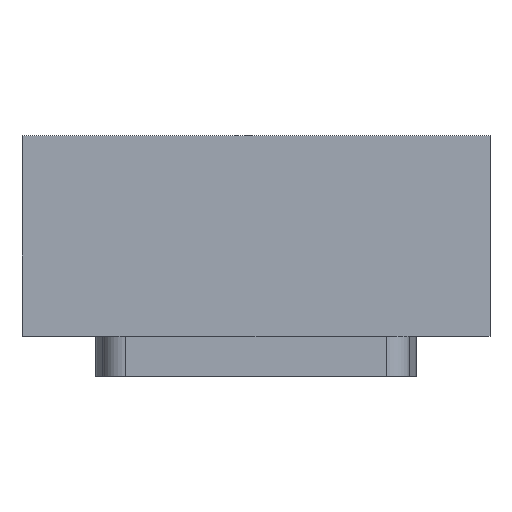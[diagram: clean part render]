
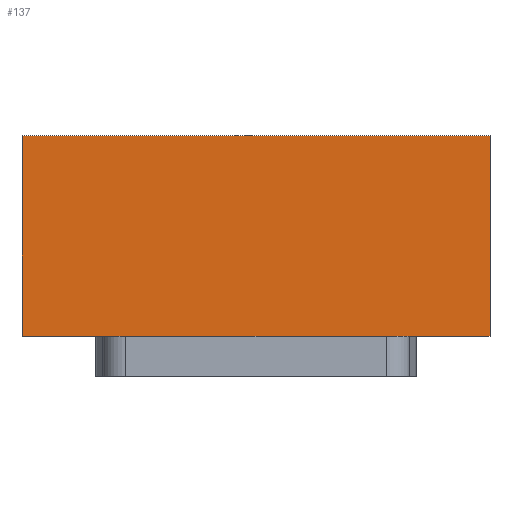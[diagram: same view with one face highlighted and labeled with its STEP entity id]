
A CAD part, left-side view. The second image highlights one B-rep face of the part: STEP entity #137.
In plain terms, the highlighted planar face has unit normal (-1, 0, 0).
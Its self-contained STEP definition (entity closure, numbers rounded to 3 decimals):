
#21 = EDGE_CURVE('',#22,#24,#26,.T.);
#22 = VERTEX_POINT('',#23);
#23 = CARTESIAN_POINT('',(-11.9,-3.5,3.6));
#24 = VERTEX_POINT('',#25);
#25 = CARTESIAN_POINT('',(-11.9,3.5,3.6));
#26 = SURFACE_CURVE('',#27,(#31,#43),.PCURVE_S1.);
#27 = LINE('',#28,#29);
#28 = CARTESIAN_POINT('',(-11.9,-10.52,3.6));
#29 = VECTOR('',#30,1.);
#30 = DIRECTION('',(-0.,1.,0.));
#31 = PCURVE('',#32,#37);
#32 = PLANE('',#33);
#33 = AXIS2_PLACEMENT_3D('',#34,#35,#36);
#34 = CARTESIAN_POINT('',(-11.9,-12.12,3.6));
#35 = DIRECTION('',(0.,0.,1.));
#36 = DIRECTION('',(1.,0.,-0.));
#37 = DEFINITIONAL_REPRESENTATION('',(#38),#42);
#38 = LINE('',#39,#40);
#39 = CARTESIAN_POINT('',(0.,1.6));
#40 = VECTOR('',#41,1.);
#41 = DIRECTION('',(0.,1.));
#42 = ( GEOMETRIC_REPRESENTATION_CONTEXT(2) 
PARAMETRIC_REPRESENTATION_CONTEXT() REPRESENTATION_CONTEXT('2D SPACE',''
  ) );
#43 = PCURVE('',#44,#49);
#44 = PLANE('',#45);
#45 = AXIS2_PLACEMENT_3D('',#46,#47,#48);
#46 = CARTESIAN_POINT('',(-11.9,-10.52,0.6));
#47 = DIRECTION('',(1.,0.,-0.));
#48 = DIRECTION('',(0.,0.,1.));
#49 = DEFINITIONAL_REPRESENTATION('',(#50),#54);
#50 = LINE('',#51,#52);
#51 = CARTESIAN_POINT('',(3.,0.));
#52 = VECTOR('',#53,1.);
#53 = DIRECTION('',(0.,-1.));
#54 = ( GEOMETRIC_REPRESENTATION_CONTEXT(2) 
PARAMETRIC_REPRESENTATION_CONTEXT() REPRESENTATION_CONTEXT('2D SPACE',''
  ) );
#72 = PLANE('',#73);
#73 = AXIS2_PLACEMENT_3D('',#74,#75,#76);
#74 = CARTESIAN_POINT('',(-13.4,-3.5,-0.6));
#75 = DIRECTION('',(-0.,1.,0.));
#76 = DIRECTION('',(0.,0.,1.));
#126 = PLANE('',#127);
#127 = AXIS2_PLACEMENT_3D('',#128,#129,#130);
#128 = CARTESIAN_POINT('',(-13.4,3.5,-0.6));
#129 = DIRECTION('',(-0.,1.,0.));
#130 = DIRECTION('',(0.,0.,1.));
#137 = ADVANCED_FACE('',(#138),#44,.F.);
#138 = FACE_BOUND('',#139,.F.);
#139 = EDGE_LOOP('',(#140,#163,#164,#187));
#140 = ORIENTED_EDGE('',*,*,#141,.T.);
#141 = EDGE_CURVE('',#142,#24,#144,.T.);
#142 = VERTEX_POINT('',#143);
#143 = CARTESIAN_POINT('',(-11.9,3.5,0.6));
#144 = SURFACE_CURVE('',#145,(#149,#156),.PCURVE_S1.);
#145 = LINE('',#146,#147);
#146 = CARTESIAN_POINT('',(-11.9,3.5,0.));
#147 = VECTOR('',#148,1.);
#148 = DIRECTION('',(0.,0.,1.));
#149 = PCURVE('',#44,#150);
#150 = DEFINITIONAL_REPRESENTATION('',(#151),#155);
#151 = LINE('',#152,#153);
#152 = CARTESIAN_POINT('',(-0.6,-14.02));
#153 = VECTOR('',#154,1.);
#154 = DIRECTION('',(1.,0.));
#155 = ( GEOMETRIC_REPRESENTATION_CONTEXT(2) 
PARAMETRIC_REPRESENTATION_CONTEXT() REPRESENTATION_CONTEXT('2D SPACE',''
  ) );
#156 = PCURVE('',#126,#157);
#157 = DEFINITIONAL_REPRESENTATION('',(#158),#162);
#158 = LINE('',#159,#160);
#159 = CARTESIAN_POINT('',(0.6,1.5));
#160 = VECTOR('',#161,1.);
#161 = DIRECTION('',(1.,0.));
#162 = ( GEOMETRIC_REPRESENTATION_CONTEXT(2) 
PARAMETRIC_REPRESENTATION_CONTEXT() REPRESENTATION_CONTEXT('2D SPACE',''
  ) );
#163 = ORIENTED_EDGE('',*,*,#21,.F.);
#164 = ORIENTED_EDGE('',*,*,#165,.F.);
#165 = EDGE_CURVE('',#166,#22,#168,.T.);
#166 = VERTEX_POINT('',#167);
#167 = CARTESIAN_POINT('',(-11.9,-3.5,0.6));
#168 = SURFACE_CURVE('',#169,(#173,#180),.PCURVE_S1.);
#169 = LINE('',#170,#171);
#170 = CARTESIAN_POINT('',(-11.9,-3.5,0.));
#171 = VECTOR('',#172,1.);
#172 = DIRECTION('',(0.,0.,1.));
#173 = PCURVE('',#44,#174);
#174 = DEFINITIONAL_REPRESENTATION('',(#175),#179);
#175 = LINE('',#176,#177);
#176 = CARTESIAN_POINT('',(-0.6,-7.02));
#177 = VECTOR('',#178,1.);
#178 = DIRECTION('',(1.,0.));
#179 = ( GEOMETRIC_REPRESENTATION_CONTEXT(2) 
PARAMETRIC_REPRESENTATION_CONTEXT() REPRESENTATION_CONTEXT('2D SPACE',''
  ) );
#180 = PCURVE('',#72,#181);
#181 = DEFINITIONAL_REPRESENTATION('',(#182),#186);
#182 = LINE('',#183,#184);
#183 = CARTESIAN_POINT('',(0.6,1.5));
#184 = VECTOR('',#185,1.);
#185 = DIRECTION('',(1.,0.));
#186 = ( GEOMETRIC_REPRESENTATION_CONTEXT(2) 
PARAMETRIC_REPRESENTATION_CONTEXT() REPRESENTATION_CONTEXT('2D SPACE',''
  ) );
#187 = ORIENTED_EDGE('',*,*,#188,.T.);
#188 = EDGE_CURVE('',#166,#142,#189,.T.);
#189 = SURFACE_CURVE('',#190,(#194,#201),.PCURVE_S1.);
#190 = LINE('',#191,#192);
#191 = CARTESIAN_POINT('',(-11.9,-10.52,0.6));
#192 = VECTOR('',#193,1.);
#193 = DIRECTION('',(-0.,1.,0.));
#194 = PCURVE('',#44,#195);
#195 = DEFINITIONAL_REPRESENTATION('',(#196),#200);
#196 = LINE('',#197,#198);
#197 = CARTESIAN_POINT('',(0.,0.));
#198 = VECTOR('',#199,1.);
#199 = DIRECTION('',(0.,-1.));
#200 = ( GEOMETRIC_REPRESENTATION_CONTEXT(2) 
PARAMETRIC_REPRESENTATION_CONTEXT() REPRESENTATION_CONTEXT('2D SPACE',''
  ) );
#201 = PCURVE('',#202,#207);
#202 = PLANE('',#203);
#203 = AXIS2_PLACEMENT_3D('',#204,#205,#206);
#204 = CARTESIAN_POINT('',(-11.9,-10.52,0.6));
#205 = DIRECTION('',(0.,0.,1.));
#206 = DIRECTION('',(1.,0.,-0.));
#207 = DEFINITIONAL_REPRESENTATION('',(#208),#212);
#208 = LINE('',#209,#210);
#209 = CARTESIAN_POINT('',(0.,0.));
#210 = VECTOR('',#211,1.);
#211 = DIRECTION('',(0.,1.));
#212 = ( GEOMETRIC_REPRESENTATION_CONTEXT(2) 
PARAMETRIC_REPRESENTATION_CONTEXT() REPRESENTATION_CONTEXT('2D SPACE',''
  ) );
